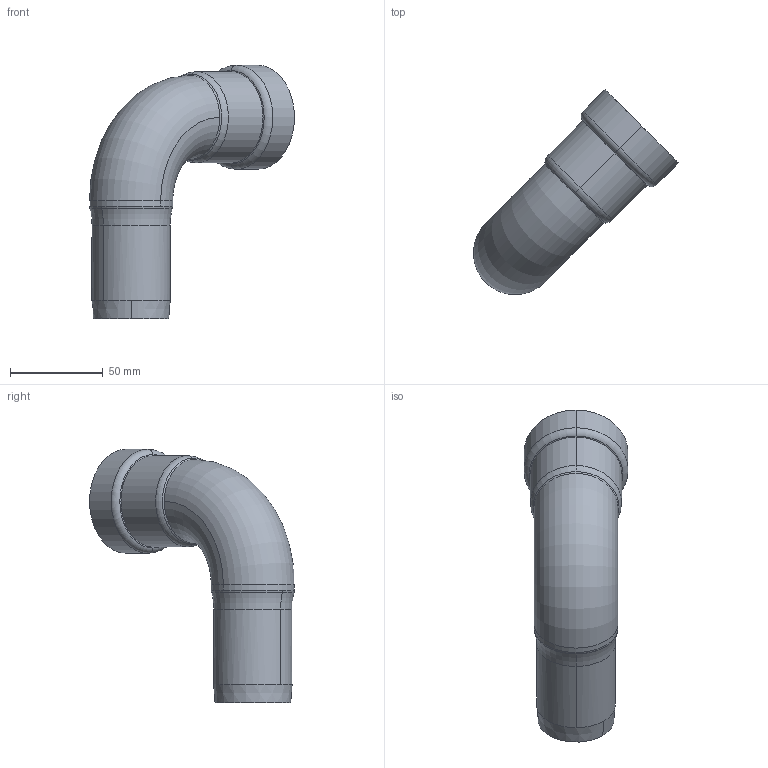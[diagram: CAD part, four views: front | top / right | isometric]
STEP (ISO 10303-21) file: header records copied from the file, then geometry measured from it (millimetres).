
FILE_DESCRIPTION(('Creo Elements/Direct Modeling STEP Export'),'2;1');
FILE_NAME('C9411_1_1-4.stp','2020-06-25T10:49:26',(''),(''),'PTC Creo Elements/Direct Modeling STEP processor for AP214 (Solid Model)','PTC Creo Elements/Direct Modeling 19.0C 15-Aug-2015 (C) Parametric Technology GmbH','');
FILE_SCHEMA(('AUTOMOTIVE_DESIGN { 1 0 10303 214 1 1 1 1 }'));
Length unit declared in the file: millimetre
Products named in the file (2): C9411_1-1-4
Assembly tree (1 placements, depth 2):
  C9411_1-1-4
    C9411_1-1-4
Bounding box: 110.46 x 110.46 x 136.55 mm (x, y, z)
Volume: 85609.1 mm3; surface area: 51653.7 mm2
Topology: 1 solids, 1 shells, 45 faces, 102 edges, 60 vertices
Faces by surface type: torus 16, cylinder 16, cone 10, plane 3
Entity records: 1149 total; most frequent: ORIENTED_EDGE 204, DIRECTION 200, CARTESIAN_POINT 173, EDGE_CURVE 102, AXIS2_PLACEMENT_3D 87, VERTEX_POINT 60, EDGE_LOOP 48, FACE_OUTER_BOUND 45
